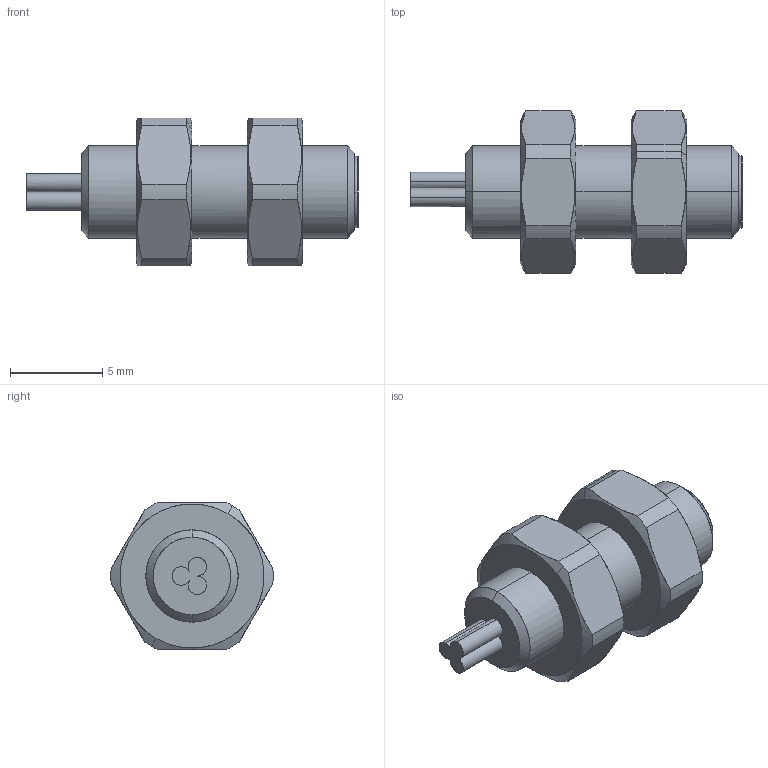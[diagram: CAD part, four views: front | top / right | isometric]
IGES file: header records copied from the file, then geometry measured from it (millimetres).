
Start section: Comment
Global section: file name: IFRM 05xxxA5_Q.igs; native system:  By Spatial Corp.; preprocessor: XPlus GENERIC/IGES 3.0; author: Author; organization: Title; date: 20040805.075240; units: inch
Bounding box: 17.98 x 8.8 x 8 mm (x, y, z)
Surface area: 671.2 mm2 (no closed solid volume)
Topology: 0 solids, 0 shells, 70 faces, 340 edges, 340 vertices
Faces by surface type: bspline 70
